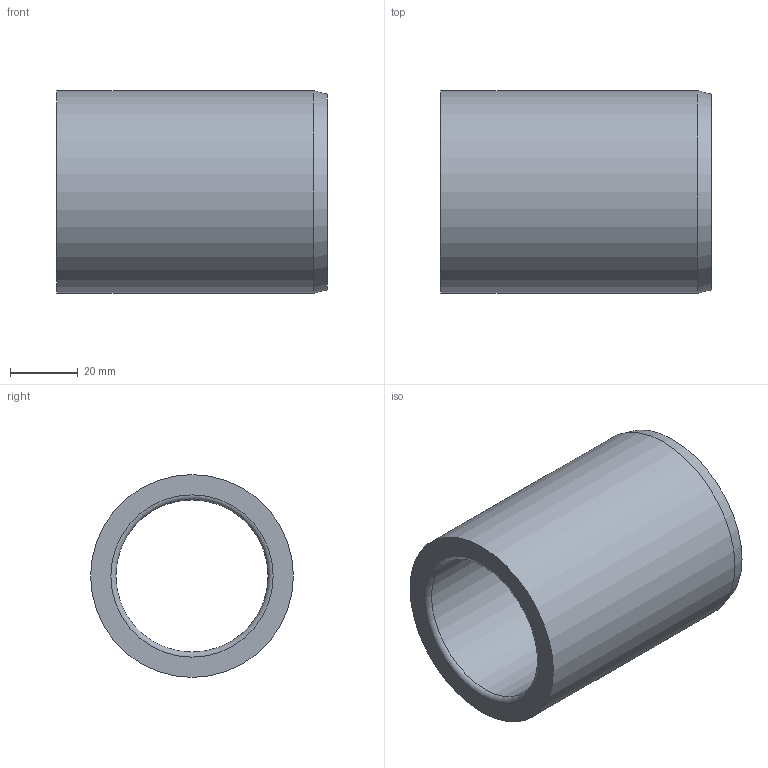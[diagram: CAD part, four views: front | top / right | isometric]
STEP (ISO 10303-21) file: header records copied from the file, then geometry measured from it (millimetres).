
FILE_DESCRIPTION(/* description */ ('Impex Ready, www.impex-ready.pl'),/* implementation_level */ '2;1');
FILE_NAME(/* name */ 'C:\Users\VIKKY\Nextcloud\SM\projekt 10 - części na stronę internetową\Pliki_3D_new\306 Tuleje BG04\306_BG04_STEP\BG04.456080.ipt.step',/* time_stamp */ '2021-12-17T16:34:53+01:00',/* author */ ('SM'),/* organization */ (''),/* preprocessor_version */ 'ST-DEVELOPER v18.1',/* originating_system */ 'Autodesk Inventor 2021',/* authorisation */ '');
FILE_SCHEMA (('AUTOMOTIVE_DESIGN { 1 0 10303 214 3 1 1 }'));
Length unit declared in the file: millimetre
Products named in the file (1): BG04.456080
Bounding box: 80 x 60 x 60 mm (x, y, z)
Volume: 98422.4 mm3; surface area: 28497.6 mm2
Topology: 1 solids, 1 shells, 7 faces, 14 edges, 9 vertices
Faces by surface type: torus 2, cylinder 2, plane 2, cone 1
Full cylindrical faces by diameter (mm): 45 x1, 60 x1
Entity records: 261 total; most frequent: DIRECTION 41, CARTESIAN_POINT 31, ORIENTED_EDGE 28, AXIS2_PLACEMENT_3D 19, EDGE_CURVE 14, CIRCLE 11, EDGE_LOOP 9, VERTEX_POINT 9
